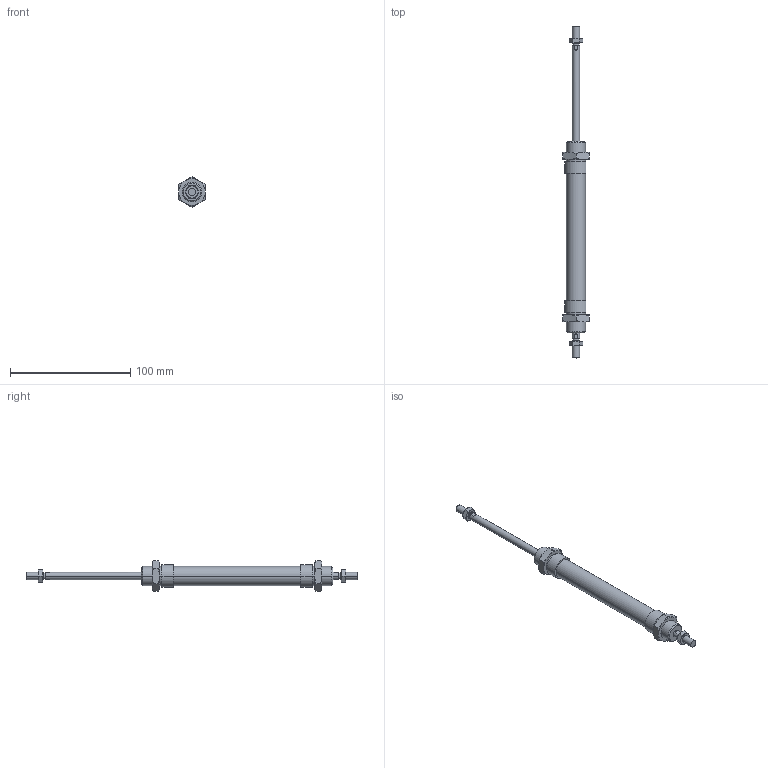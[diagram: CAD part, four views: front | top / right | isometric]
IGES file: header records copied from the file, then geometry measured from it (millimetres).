
Global section: file name: No Iges File Name specified; native system: AutoDesk Inventor R6.0; preprocessor: AutoDesk Inventor Iges Exporter R6.0; author: No Author specified; organization: No Organization specified; date: 20030403.072030; units: millimetre
Bounding box: 22 x 276 x 25.4 mm (x, y, z)
Volume: 39931 mm3; surface area: 20108.7 mm2
Topology: 6 solids, 6 shells, 180 faces, 388 edges, 228 vertices
Faces by surface type: cone 68, plane 56, bspline 30, cylinder 20, revolution 6
